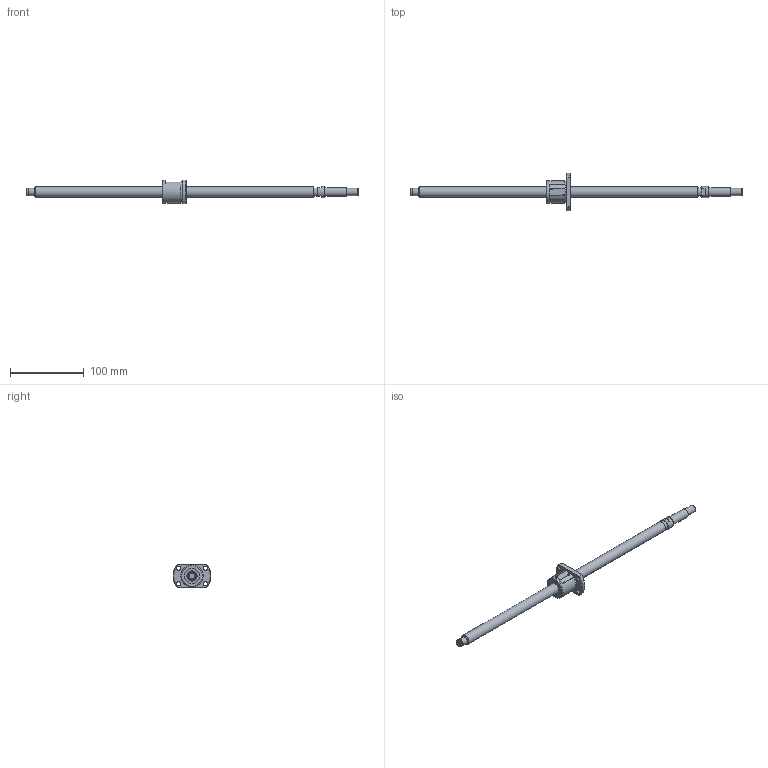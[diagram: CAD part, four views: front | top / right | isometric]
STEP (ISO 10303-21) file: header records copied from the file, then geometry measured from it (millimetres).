
FILE_DESCRIPTION(/* description */ ('STEP AP214'),/* implementation_level */ '2;1');
FILE_NAME(/* name */ 'SG1404-378R450C5B0X(172.5)',/* time_stamp */ '2026-07-24T21:01:42+02:00',/* author */ ('License CC BY-ND 4.0'),/* organization */ ('CADENAS'),/* preprocessor_version */ 'ST-DEVELOPER v20',/* originating_system */ 'PARTsolutions',/* authorisation */ ' ');
FILE_SCHEMA (('AUTOMOTIVE_DESIGN {1 0 10303 214 3 1 1}'));
Length unit declared in the file: millimetre
Products named in the file (3): SG1404-378R450C5B0X(172.5); SG1404-378R450C5B_shaft; SG1404 C5_nut
Assembly tree (2 placements, depth 2):
  SG1404-378R450C5B0X(172.5)
    SG1404-378R450C5B_shaft
    SG1404 C5_nut
Bounding box: 450 x 51 x 32 mm (x, y, z)
Volume: 87436.3 mm3; surface area: 27437.1 mm2
Topology: 2 solids, 2 shells, 85 faces, 202 edges, 132 vertices
Faces by surface type: plane 41, cylinder 29, cone 14, torus 1
Full cylindrical faces by diameter (mm): 5.5 x4, 9.6 x1, 10 x3, 12 x1, 12.16 x1, 14 x2, 15 x1, 21 x2, 29.6 x1, 30 x1
Entity records: 2353 total; most frequent: CARTESIAN_POINT 430, DIRECTION 404, ORIENTED_EDGE 326, AXIS2_PLACEMENT_3D 171, EDGE_CURVE 163, EDGE_LOOP 134, FACE_BOUND 134, VERTEX_POINT 121
